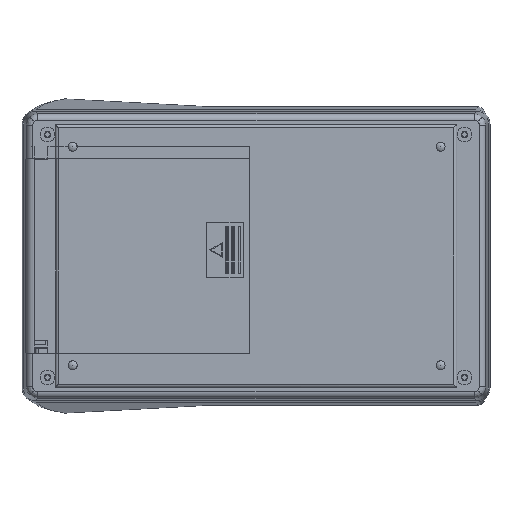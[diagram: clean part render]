
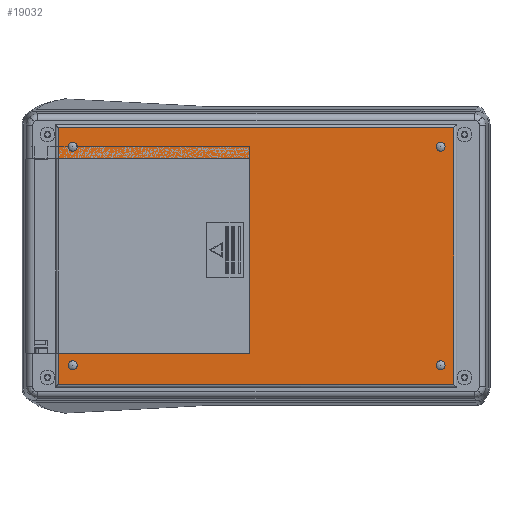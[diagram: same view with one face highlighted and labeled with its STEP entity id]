
A CAD part, front view. The second image highlights one B-rep face of the part: STEP entity #19032.
In plain terms, the highlighted planar face has unit normal (0, -1, 0).
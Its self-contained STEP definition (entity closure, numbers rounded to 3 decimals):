
#294 = AXIS2_PLACEMENT_3D ( 'NONE', #9558, #25617, #11869 ) ;
#436 = ORIENTED_EDGE ( 'NONE', *, *, #17993, .F. ) ;
#494 = DIRECTION ( 'NONE',  ( -1., 0., 0. ) ) ;
#732 = DIRECTION ( 'NONE',  ( 1., 0., 0. ) ) ;
#864 = EDGE_CURVE ( 'NONE', #9947, #23570, #934, .T. ) ;
#885 = EDGE_CURVE ( 'NONE', #3550, #24247, #12475, .T. ) ;
#899 = DIRECTION ( 'NONE',  ( 0., -1., 0. ) ) ;
#933 = CARTESIAN_POINT ( 'NONE',  ( -57.5, -18., 35.7 ) ) ;
#934 = LINE ( 'NONE', #25942, #18595 ) ;
#1167 = EDGE_CURVE ( 'NONE', #28008, #19384, #13906, .T. ) ;
#1383 = DIRECTION ( 'NONE',  ( 0., -1., 0. ) ) ;
#1429 = CARTESIAN_POINT ( 'NONE',  ( 57.9, -18., -32.9 ) ) ;
#2102 = CARTESIAN_POINT ( 'NONE',  ( -62., -18., -41.25 ) ) ;
#2580 = EDGE_CURVE ( 'NONE', #15159, #9462, #10808, .T. ) ;
#2839 = FACE_BOUND ( 'NONE', #6383, .T. ) ;
#3550 = VERTEX_POINT ( 'NONE', #14695 ) ;
#3583 = ORIENTED_EDGE ( 'NONE', *, *, #864, .T. ) ;
#4463 = EDGE_CURVE ( 'NONE', #18582, #15956, #13946, .T. ) ;
#4478 = ORIENTED_EDGE ( 'NONE', *, *, #16186, .F. ) ;
#4845 = ORIENTED_EDGE ( 'NONE', *, *, #17176, .F. ) ;
#5365 = ORIENTED_EDGE ( 'NONE', *, *, #2580, .T. ) ;
#6026 = DIRECTION ( 'NONE',  ( 0., 0., 1. ) ) ;
#6353 = ORIENTED_EDGE ( 'NONE', *, *, #1167, .F. ) ;
#6383 = EDGE_LOOP ( 'NONE', ( #26046, #25260 ) ) ;
#7045 = EDGE_LOOP ( 'NONE', ( #28964, #7397 ) ) ;
#7355 = CARTESIAN_POINT ( 'NONE',  ( 63., -18., -40.25 ) ) ;
#7397 = ORIENTED_EDGE ( 'NONE', *, *, #885, .F. ) ;
#7563 = CARTESIAN_POINT ( 'NONE',  ( -57.5, -18., -34.3 ) ) ;
#7583 = EDGE_CURVE ( 'NONE', #23561, #27887, #18904, .T. ) ;
#7644 = CARTESIAN_POINT ( 'NONE',  ( -57.5, -18., 32.9 ) ) ;
#8318 = VECTOR ( 'NONE', #18197, 1000. ) ;
#8593 = AXIS2_PLACEMENT_3D ( 'NONE', #7563, #23602, #9846 ) ;
#8997 = FACE_BOUND ( 'NONE', #7045, .T. ) ;
#9008 = CARTESIAN_POINT ( 'NONE',  ( 57.9, -18., -35.7 ) ) ;
#9092 = LINE ( 'NONE', #14531, #20548 ) ;
#9246 = ORIENTED_EDGE ( 'NONE', *, *, #10219, .T. ) ;
#9462 = VERTEX_POINT ( 'NONE', #25333 ) ;
#9558 = CARTESIAN_POINT ( 'NONE',  ( 57.9, -18., 34.3 ) ) ;
#9708 = DIRECTION ( 'NONE',  ( 0., -1., 0. ) ) ;
#9846 = DIRECTION ( 'NONE',  ( 0., 0., -1. ) ) ;
#9947 = VERTEX_POINT ( 'NONE', #26425 ) ;
#9958 = EDGE_CURVE ( 'NONE', #9462, #14593, #21596, .T. ) ;
#10216 = CARTESIAN_POINT ( 'NONE',  ( -57.5, -18., 34.3 ) ) ;
#10219 = EDGE_CURVE ( 'NONE', #23570, #24642, #25915, .T. ) ;
#10808 = LINE ( 'NONE', #18787, #28366 ) ;
#11608 = CARTESIAN_POINT ( 'NONE',  ( -2., -18., 30.5 ) ) ;
#11795 = EDGE_CURVE ( 'NONE', #24247, #3550, #17895, .T. ) ;
#11843 = VECTOR ( 'NONE', #6026, 1000. ) ;
#11869 = DIRECTION ( 'NONE',  ( 0., 0., -1. ) ) ;
#12100 = CARTESIAN_POINT ( 'NONE',  ( -57.5, -18., -34.3 ) ) ;
#12277 = CARTESIAN_POINT ( 'NONE',  ( 57.9, -18., 34.3 ) ) ;
#12475 = CIRCLE ( 'NONE', #26664, 1.4 ) ;
#12503 = DIRECTION ( 'NONE',  ( 0., 0., -1. ) ) ;
#12510 = AXIS2_PLACEMENT_3D ( 'NONE', #15152, #1383, #17476 ) ;
#12661 = DIRECTION ( 'NONE',  ( 1., 0., 0. ) ) ;
#13414 = AXIS2_PLACEMENT_3D ( 'NONE', #12100, #28134, #14383 ) ;
#13635 = CARTESIAN_POINT ( 'NONE',  ( -2., -18., -30.5 ) ) ;
#13906 = CIRCLE ( 'NONE', #8593, 1.4 ) ;
#13946 = CIRCLE ( 'NONE', #18858, 1.4 ) ;
#14383 = DIRECTION ( 'NONE',  ( 0., 0., -1. ) ) ;
#14465 = EDGE_CURVE ( 'NONE', #15956, #18582, #29236, .T. ) ;
#14531 = CARTESIAN_POINT ( 'NONE',  ( -2., -18., -30.5 ) ) ;
#14580 = DIRECTION ( 'NONE',  ( 0., 0., -1. ) ) ;
#14593 = VERTEX_POINT ( 'NONE', #29509 ) ;
#14601 = CARTESIAN_POINT ( 'NONE',  ( -2., -18., -30.5 ) ) ;
#14688 = CARTESIAN_POINT ( 'NONE',  ( 57.9, -18., -34.3 ) ) ;
#14695 = CARTESIAN_POINT ( 'NONE',  ( 57.9, -18., 32.9 ) ) ;
#14947 = EDGE_LOOP ( 'NONE', ( #4845, #6353 ) ) ;
#15139 = CARTESIAN_POINT ( 'NONE',  ( 62., -18., 41.25 ) ) ;
#15152 = CARTESIAN_POINT ( 'NONE',  ( 57.9, -18., -34.3 ) ) ;
#15159 = VERTEX_POINT ( 'NONE', #16449 ) ;
#15363 = DIRECTION ( 'NONE',  ( 0., 0., -1. ) ) ;
#15844 = EDGE_CURVE ( 'NONE', #27887, #23561, #15847, .T. ) ;
#15847 = CIRCLE ( 'NONE', #24457, 1.4 ) ;
#15956 = VERTEX_POINT ( 'NONE', #1429 ) ;
#16186 = EDGE_CURVE ( 'NONE', #22713, #18676, #18876, .T. ) ;
#16222 = VECTOR ( 'NONE', #12661, 1000. ) ;
#16224 = LINE ( 'NONE', #20046, #21600 ) ;
#16449 = CARTESIAN_POINT ( 'NONE',  ( -62., -18., -30.5 ) ) ;
#16639 = ORIENTED_EDGE ( 'NONE', *, *, #26465, .T. ) ;
#16988 = DIRECTION ( 'NONE',  ( 0., 0., -1. ) ) ;
#17176 = EDGE_CURVE ( 'NONE', #19384, #28008, #26004, .T. ) ;
#17386 = CARTESIAN_POINT ( 'NONE',  ( 57.9, -18., 35.7 ) ) ;
#17476 = DIRECTION ( 'NONE',  ( 0., 0., -1. ) ) ;
#17895 = CIRCLE ( 'NONE', #294, 1.4 ) ;
#17948 = LINE ( 'NONE', #15139, #11843 ) ;
#17993 = EDGE_CURVE ( 'NONE', #18676, #24642, #16224, .T. ) ;
#18021 = ORIENTED_EDGE ( 'NONE', *, *, #9958, .T. ) ;
#18168 = VECTOR ( 'NONE', #27258, 1000. ) ;
#18197 = DIRECTION ( 'NONE',  ( 0., 0., -1. ) ) ;
#18582 = VERTEX_POINT ( 'NONE', #9008 ) ;
#18595 = VECTOR ( 'NONE', #494, 1000. ) ;
#18676 = VERTEX_POINT ( 'NONE', #11608 ) ;
#18787 = CARTESIAN_POINT ( 'NONE',  ( -62., -18., -41.25 ) ) ;
#18858 = AXIS2_PLACEMENT_3D ( 'NONE', #14688, #899, #16988 ) ;
#18876 = LINE ( 'NONE', #13635, #18168 ) ;
#18904 = CIRCLE ( 'NONE', #26819, 1.4 ) ;
#19032 = ADVANCED_FACE ( 'NONE', ( #8997, #21156, #26559, #20454, #2839 ), #24395, .T. ) ;
#19172 = EDGE_LOOP ( 'NONE', ( #27868, #20814 ) ) ;
#19384 = VERTEX_POINT ( 'NONE', #22641 ) ;
#20046 = CARTESIAN_POINT ( 'NONE',  ( -2., -18., 30.5 ) ) ;
#20454 = FACE_BOUND ( 'NONE', #14947, .T. ) ;
#20548 = VECTOR ( 'NONE', #732, 1000. ) ;
#20814 = ORIENTED_EDGE ( 'NONE', *, *, #4463, .F. ) ;
#21156 = FACE_OUTER_BOUND ( 'NONE', #24436, .T. ) ;
#21596 = LINE ( 'NONE', #7355, #16222 ) ;
#21600 = VECTOR ( 'NONE', #24660, 1000. ) ;
#21683 = CARTESIAN_POINT ( 'NONE',  ( -62., -18., 30.5 ) ) ;
#22641 = CARTESIAN_POINT ( 'NONE',  ( -57.5, -18., -32.9 ) ) ;
#22713 = VERTEX_POINT ( 'NONE', #14601 ) ;
#23451 = CARTESIAN_POINT ( 'NONE',  ( -57.5, -18., 34.3 ) ) ;
#23561 = VERTEX_POINT ( 'NONE', #7644 ) ;
#23570 = VERTEX_POINT ( 'NONE', #28378 ) ;
#23602 = DIRECTION ( 'NONE',  ( 0., -1., 0. ) ) ;
#24247 = VERTEX_POINT ( 'NONE', #17386 ) ;
#24395 = PLANE ( 'NONE',  #24762 ) ;
#24436 = EDGE_LOOP ( 'NONE', ( #436, #4478, #28969, #5365, #18021, #16639, #3583, #9246 ) ) ;
#24457 = AXIS2_PLACEMENT_3D ( 'NONE', #10216, #26263, #12503 ) ;
#24642 = VERTEX_POINT ( 'NONE', #21683 ) ;
#24660 = DIRECTION ( 'NONE',  ( -1., 0., 0. ) ) ;
#24762 = AXIS2_PLACEMENT_3D ( 'NONE', #26824, #29111, #15363 ) ;
#25080 = EDGE_CURVE ( 'NONE', #15159, #22713, #9092, .T. ) ;
#25260 = ORIENTED_EDGE ( 'NONE', *, *, #7583, .F. ) ;
#25333 = CARTESIAN_POINT ( 'NONE',  ( -62., -18., -40.25 ) ) ;
#25617 = DIRECTION ( 'NONE',  ( 0., -1., 0. ) ) ;
#25773 = DIRECTION ( 'NONE',  ( 0., 0., -1. ) ) ;
#25915 = LINE ( 'NONE', #2102, #8318 ) ;
#25942 = CARTESIAN_POINT ( 'NONE',  ( -63., -18., 40.25 ) ) ;
#26004 = CIRCLE ( 'NONE', #13414, 1.4 ) ;
#26046 = ORIENTED_EDGE ( 'NONE', *, *, #15844, .F. ) ;
#26263 = DIRECTION ( 'NONE',  ( 0., -1., 0. ) ) ;
#26425 = CARTESIAN_POINT ( 'NONE',  ( 62., -18., 40.25 ) ) ;
#26465 = EDGE_CURVE ( 'NONE', #14593, #9947, #17948, .T. ) ;
#26559 = FACE_BOUND ( 'NONE', #19172, .T. ) ;
#26664 = AXIS2_PLACEMENT_3D ( 'NONE', #12277, #28318, #14580 ) ;
#26819 = AXIS2_PLACEMENT_3D ( 'NONE', #23451, #9708, #25773 ) ;
#26824 = CARTESIAN_POINT ( 'NONE',  ( -63., -18., 41.25 ) ) ;
#27258 = DIRECTION ( 'NONE',  ( 0., 0., 1. ) ) ;
#27868 = ORIENTED_EDGE ( 'NONE', *, *, #14465, .F. ) ;
#27887 = VERTEX_POINT ( 'NONE', #933 ) ;
#27915 = DIRECTION ( 'NONE',  ( 0., 0., -1. ) ) ;
#28008 = VERTEX_POINT ( 'NONE', #29159 ) ;
#28134 = DIRECTION ( 'NONE',  ( 0., -1., 0. ) ) ;
#28318 = DIRECTION ( 'NONE',  ( 0., -1., 0. ) ) ;
#28366 = VECTOR ( 'NONE', #27915, 1000. ) ;
#28378 = CARTESIAN_POINT ( 'NONE',  ( -62., -18., 40.25 ) ) ;
#28964 = ORIENTED_EDGE ( 'NONE', *, *, #11795, .F. ) ;
#28969 = ORIENTED_EDGE ( 'NONE', *, *, #25080, .F. ) ;
#29111 = DIRECTION ( 'NONE',  ( 0., -1., 0. ) ) ;
#29159 = CARTESIAN_POINT ( 'NONE',  ( -57.5, -18., -35.7 ) ) ;
#29236 = CIRCLE ( 'NONE', #12510, 1.4 ) ;
#29509 = CARTESIAN_POINT ( 'NONE',  ( 62., -18., -40.25 ) ) ;
